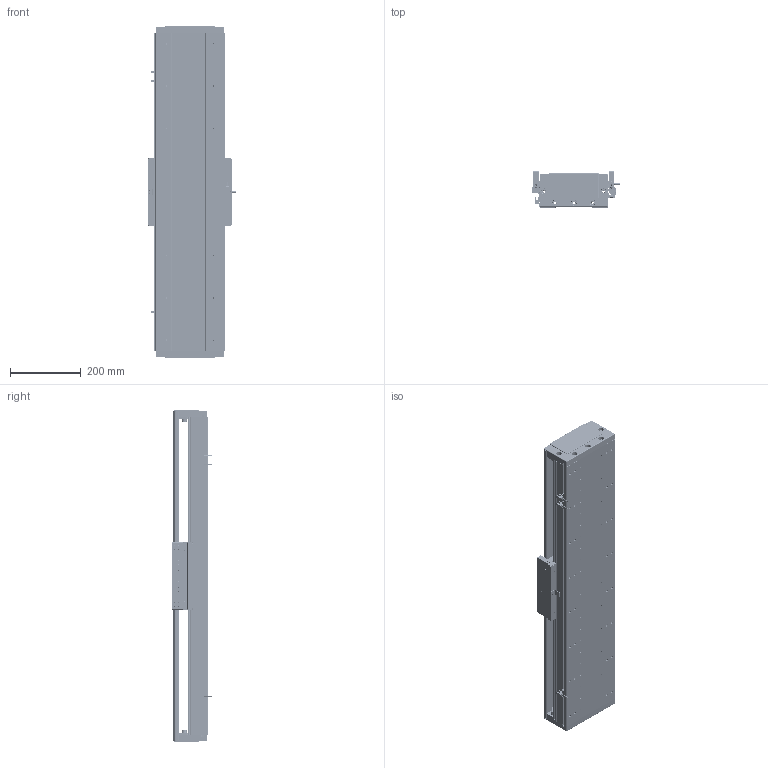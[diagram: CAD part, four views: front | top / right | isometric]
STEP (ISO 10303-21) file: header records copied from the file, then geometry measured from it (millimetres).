
FILE_DESCRIPTION (( 'STEP AP203' ), '1' );
FILE_NAME ('DA-C195-C2-T660-C010-0.2 眻盄萇儂.STEP', '2025-08-15T01:01:17', ( '' ), ( '' ), 'SwSTEP 2.0', 'SolidWorks 2019', '' );
FILE_SCHEMA (( 'CONFIG_CONTROL_DESIGN' ));
Length unit declared in the file: millimetre
Products named in the file (12): LMT黍杅芛; 66156-0001-005-00 光电感应片(默认); MS200 棠掑喜S315-T240; 66156-0001-003-00 裔啣; IU-CU195-L-00 菁釱(L900); CU195-C2賑輸-俋楷; DA195-DG-H-00  端盖（压铸镂空版）; IU-CU195-L 菁釱絳寢; DA-C195-C2-T660-C010-0.2 眻盄萇儂; PM-T45ㄗ侂狟ㄘ; DA95-HXJ-00 遣喳砎蝶; 葩璃 DA95-GT-T-00
Assembly tree (20 placements, depth 3):
  DA-C195-C2-T660-C010-0.2 眻盄萇儂
    IU-CU195-L 菁釱絳寢
      IU-CU195-L-00 菁釱(L900)
      葩璃 DA95-GT-T-00  x4
    LMT黍杅芛
    MS200 棠掑喜S315-T240
    PM-T45ㄗ侂狟ㄘ  x3
    66156-0001-005-00 光电感应片(默认)
    DA195-DG-H-00  端盖（压铸镂空版）  x2
    DA95-HXJ-00 遣喳砎蝶  x4
    66156-0001-003-00 裔啣
    CU195-C2賑輸-俋楷
Bounding box: 248 x 115.6 x 940 mm (x, y, z)
Volume: 6902506.2 mm3; surface area: 1965423.3 mm2
Topology: 58 solids, 130 shells, 5155 faces, 13052 edges, 7913 vertices
Faces by surface type: cylinder 2173, plane 1632, bspline 710, cone 560, torus 44, sphere 36
Entity records: 140269 total; most frequent: CARTESIAN_POINT 43295, ORIENTED_EDGE 20158, DIRECTION 19528, EDGE_CURVE 10079, AXIS2_PLACEMENT_3D 7259, VERTEX_POINT 6343, LINE 5010, VECTOR 5010
